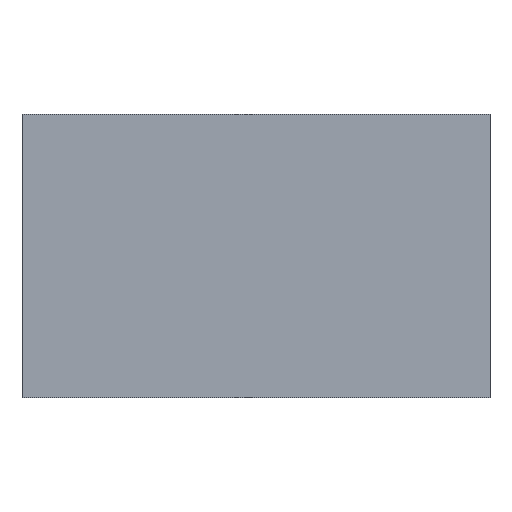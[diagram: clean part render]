
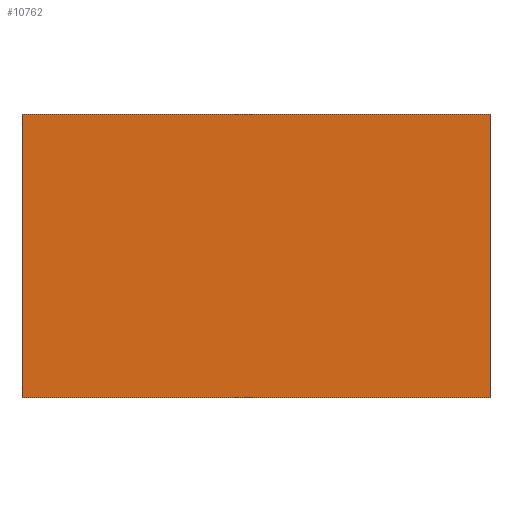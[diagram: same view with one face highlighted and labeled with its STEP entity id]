
A CAD part, top view. The second image highlights one B-rep face of the part: STEP entity #10762.
In plain terms, the highlighted planar face has unit normal (0, 0, 1).
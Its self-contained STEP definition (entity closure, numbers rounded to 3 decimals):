
#550=FACE_OUTER_BOUND('',#1069,.T.);
#1069=EDGE_LOOP('',(#9383,#9384,#9385,#9386));
#2162=LINE('',#16187,#3682);
#2589=LINE('',#16956,#4109);
#2590=LINE('',#16959,#4110);
#2591=LINE('',#16960,#4111);
#3682=VECTOR('',#13114,10.);
#4109=VECTOR('',#13881,10.);
#4110=VECTOR('',#13884,10.);
#4111=VECTOR('',#13885,10.);
#4960=VERTEX_POINT('',#16184);
#4961=VERTEX_POINT('',#16186);
#5133=VERTEX_POINT('',#16954);
#5134=VERTEX_POINT('',#16958);
#6238=EDGE_CURVE('',#4960,#4961,#2162,.T.);
#6665=EDGE_CURVE('',#5133,#4961,#2589,.T.);
#6666=EDGE_CURVE('',#5133,#5134,#2590,.T.);
#6667=EDGE_CURVE('',#5134,#4960,#2591,.T.);
#9383=ORIENTED_EDGE('',*,*,#6666,.F.);
#9384=ORIENTED_EDGE('',*,*,#6665,.T.);
#9385=ORIENTED_EDGE('',*,*,#6238,.F.);
#9386=ORIENTED_EDGE('',*,*,#6667,.F.);
#10246=PLANE('',#11306);
#10762=ADVANCED_FACE('',(#550),#10246,.T.);
#11306=AXIS2_PLACEMENT_3D('',#16957,#13882,#13883);
#13114=DIRECTION('',(1.,0.,0.));
#13881=DIRECTION('',(0.,1.,0.));
#13882=DIRECTION('center_axis',(0.,0.,1.));
#13883=DIRECTION('ref_axis',(1.,0.,0.));
#13884=DIRECTION('',(-1.,0.,0.));
#13885=DIRECTION('',(0.,1.,0.));
#16184=CARTESIAN_POINT('',(-4.,101.,31.));
#16186=CARTESIAN_POINT('',(162.6,101.,31.));
#16187=CARTESIAN_POINT('',(162.6,101.,31.));
#16954=CARTESIAN_POINT('',(162.6,0.,31.));
#16956=CARTESIAN_POINT('',(162.6,0.,31.));
#16957=CARTESIAN_POINT('Origin',(-4.,0.,31.));
#16958=CARTESIAN_POINT('',(-4.,0.,31.));
#16959=CARTESIAN_POINT('',(162.6,0.,31.));
#16960=CARTESIAN_POINT('',(-4.,0.,31.));
